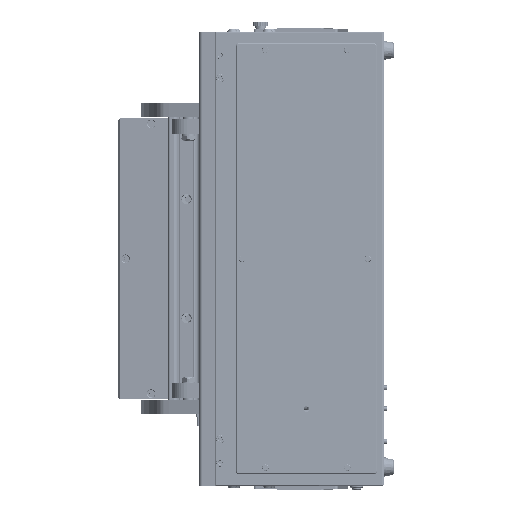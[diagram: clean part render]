
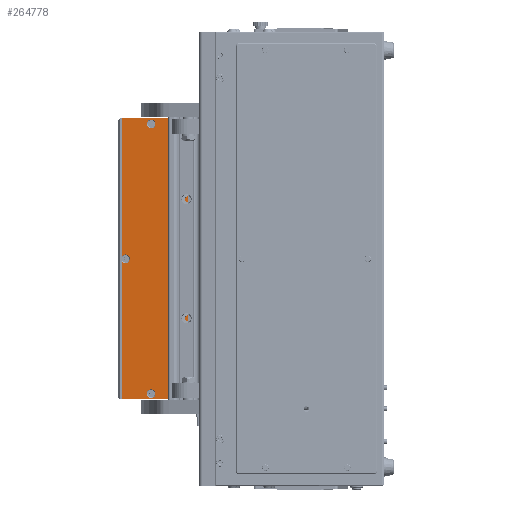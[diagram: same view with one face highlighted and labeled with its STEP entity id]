
A CAD part, left-side view. The second image highlights one B-rep face of the part: STEP entity #264778.
In plain terms, the highlighted planar face has unit normal (-0.996, 0.087, 0) as drawn and (0, 1, 0) by its records, which use the part's own axes.
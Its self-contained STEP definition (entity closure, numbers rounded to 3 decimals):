
#3710 = VERTEX_POINT ( 'NONE', #69467 ) ;
#8762 = VERTEX_POINT ( 'NONE', #25890 ) ;
#10973 = DIRECTION ( 'NONE',  ( 0., -1., 0. ) ) ;
#15471 = EDGE_CURVE ( 'NONE', #184939, #269927, #206270, .T. ) ;
#17986 = VERTEX_POINT ( 'NONE', #201702 ) ;
#18403 = AXIS2_PLACEMENT_3D ( 'NONE', #132474, #295854, #154140 ) ;
#21035 = AXIS2_PLACEMENT_3D ( 'NONE', #115789, #163146, #69585 ) ;
#21319 = EDGE_CURVE ( 'NONE', #148043, #54287, #221455, .T. ) ;
#22458 = VERTEX_POINT ( 'NONE', #303409 ) ;
#25890 = CARTESIAN_POINT ( 'NONE',  ( -145.016, 4., 15.502 ) ) ;
#27506 = DIRECTION ( 'NONE',  ( 0., 1., 0. ) ) ;
#28159 = ORIENTED_EDGE ( 'NONE', *, *, #15471, .T. ) ;
#30425 = EDGE_CURVE ( 'NONE', #192293, #17986, #283489, .T. ) ;
#37160 = VERTEX_POINT ( 'NONE', #208017 ) ;
#37523 = CIRCLE ( 'NONE', #167108, 4.7 ) ;
#38209 = EDGE_CURVE ( 'NONE', #148043, #122753, #292795, .T. ) ;
#41660 = AXIS2_PLACEMENT_3D ( 'NONE', #266829, #10973, #78728 ) ;
#47241 = EDGE_LOOP ( 'NONE', ( #271883, #288729 ) ) ;
#49087 = CIRCLE ( 'NONE', #185803, 4.7 ) ;
#52708 = ORIENTED_EDGE ( 'NONE', *, *, #277889, .T. ) ;
#54287 = VERTEX_POINT ( 'NONE', #266436 ) ;
#56423 = EDGE_CURVE ( 'NONE', #54287, #196783, #159229, .T. ) ;
#57154 = DIRECTION ( 'NONE',  ( 0., 1., 0. ) ) ;
#62972 = LINE ( 'NONE', #106122, #177107 ) ;
#69467 = CARTESIAN_POINT ( 'NONE',  ( -149., 4., 50.527 ) ) ;
#69585 = DIRECTION ( 'NONE',  ( 0., 0., 1. ) ) ;
#71618 = CARTESIAN_POINT ( 'NONE',  ( 2.441, 4., -20.923 ) ) ;
#78728 = DIRECTION ( 'NONE',  ( 0., 0., -1. ) ) ;
#81742 = ORIENTED_EDGE ( 'NONE', *, *, #233157, .T. ) ;
#84841 = DIRECTION ( 'NONE',  ( 0., 1., 0. ) ) ;
#94372 = ORIENTED_EDGE ( 'NONE', *, *, #56423, .F. ) ;
#106122 = CARTESIAN_POINT ( 'NONE',  ( -151., 4., 50.527 ) ) ;
#107581 = DIRECTION ( 'NONE',  ( -1., 0., 0. ) ) ;
#108461 = VECTOR ( 'NONE', #232406, 1000. ) ;
#115789 = CARTESIAN_POINT ( 'NONE',  ( 0., 4., -16.906 ) ) ;
#118422 = CIRCLE ( 'NONE', #254861, 2. ) ;
#119297 = CARTESIAN_POINT ( 'NONE',  ( -151., 4., -20.923 ) ) ;
#122753 = VERTEX_POINT ( 'NONE', #119297 ) ;
#130266 = CARTESIAN_POINT ( 'NONE',  ( -151., 4., -20.923 ) ) ;
#131723 = ORIENTED_EDGE ( 'NONE', *, *, #38209, .T. ) ;
#132474 = CARTESIAN_POINT ( 'NONE',  ( -145.016, 4., 10.802 ) ) ;
#134068 = ORIENTED_EDGE ( 'NONE', *, *, #220825, .T. ) ;
#140192 = DIRECTION ( 'NONE',  ( 0., 1., 0. ) ) ;
#142361 = FACE_BOUND ( 'NONE', #47241, .T. ) ;
#145409 = ORIENTED_EDGE ( 'NONE', *, *, #261038, .T. ) ;
#148043 = VERTEX_POINT ( 'NONE', #280533 ) ;
#148949 = LINE ( 'NONE', #207792, #108461 ) ;
#151139 = CARTESIAN_POINT ( 'NONE',  ( -145.016, 4., 10.802 ) ) ;
#152443 = DIRECTION ( 'NONE',  ( 0., 0., -1. ) ) ;
#152853 = DIRECTION ( 'NONE',  ( 0., 0., 1. ) ) ;
#153195 = FACE_OUTER_BOUND ( 'NONE', #169547, .T. ) ;
#154140 = DIRECTION ( 'NONE',  ( 0., 0., 1. ) ) ;
#156977 = AXIS2_PLACEMENT_3D ( 'NONE', #199603, #243878, #152443 ) ;
#157875 = EDGE_LOOP ( 'NONE', ( #158210, #167974 ) ) ;
#158210 = ORIENTED_EDGE ( 'NONE', *, *, #236265, .F. ) ;
#159229 = CIRCLE ( 'NONE', #21035, 4.7 ) ;
#160550 = VECTOR ( 'NONE', #240747, 1000. ) ;
#161595 = CARTESIAN_POINT ( 'NONE',  ( 145.016, 4., 6.102 ) ) ;
#163146 = DIRECTION ( 'NONE',  ( 0., 1., 0. ) ) ;
#167108 = AXIS2_PLACEMENT_3D ( 'NONE', #271891, #57154, #152853 ) ;
#167974 = ORIENTED_EDGE ( 'NONE', *, *, #30425, .F. ) ;
#169547 = EDGE_LOOP ( 'NONE', ( #215710, #94372, #261783, #131723, #134068, #145409, #52708, #81742, #28159 ) ) ;
#174036 = CARTESIAN_POINT ( 'NONE',  ( -151., 4., 48.527 ) ) ;
#177107 = VECTOR ( 'NONE', #248009, 1000. ) ;
#178811 = DIRECTION ( 'NONE',  ( 0., 1., 0. ) ) ;
#184939 = VERTEX_POINT ( 'NONE', #222354 ) ;
#185552 = EDGE_CURVE ( 'NONE', #8762, #37160, #49087, .T. ) ;
#185708 = EDGE_CURVE ( 'NONE', #269927, #196783, #219777, .T. ) ;
#185803 = AXIS2_PLACEMENT_3D ( 'NONE', #151139, #178811, #199347 ) ;
#190459 = AXIS2_PLACEMENT_3D ( 'NONE', #213531, #27506, #241222 ) ;
#192293 = VERTEX_POINT ( 'NONE', #161595 ) ;
#194180 = AXIS2_PLACEMENT_3D ( 'NONE', #271898, #84841, #269881 ) ;
#196783 = VERTEX_POINT ( 'NONE', #71618 ) ;
#197992 = PLANE ( 'NONE',  #41660 ) ;
#199347 = DIRECTION ( 'NONE',  ( 0., 0., 1. ) ) ;
#199603 = CARTESIAN_POINT ( 'NONE',  ( -149., 4., 48.527 ) ) ;
#201702 = CARTESIAN_POINT ( 'NONE',  ( 145.016, 4., 15.502 ) ) ;
#206270 = LINE ( 'NONE', #269458, #276060 ) ;
#207792 = CARTESIAN_POINT ( 'NONE',  ( -151., 4., 50.527 ) ) ;
#208017 = CARTESIAN_POINT ( 'NONE',  ( -145.016, 4., 6.102 ) ) ;
#208301 = FACE_BOUND ( 'NONE', #157875, .T. ) ;
#211016 = DIRECTION ( 'NONE',  ( 0., 0., -1. ) ) ;
#213531 = CARTESIAN_POINT ( 'NONE',  ( 0., 4., -16.906 ) ) ;
#215710 = ORIENTED_EDGE ( 'NONE', *, *, #185708, .T. ) ;
#219777 = LINE ( 'NONE', #130266, #263990 ) ;
#220825 = EDGE_CURVE ( 'NONE', #122753, #236834, #62972, .T. ) ;
#221455 = CIRCLE ( 'NONE', #190459, 4.7 ) ;
#222354 = CARTESIAN_POINT ( 'NONE',  ( 151., 4., 48.527 ) ) ;
#230973 = CIRCLE ( 'NONE', #18403, 4.7 ) ;
#232406 = DIRECTION ( 'NONE',  ( 1., 0., 0. ) ) ;
#233157 = EDGE_CURVE ( 'NONE', #22458, #184939, #118422, .T. ) ;
#234754 = CARTESIAN_POINT ( 'NONE',  ( 151., 4., -20.923 ) ) ;
#236265 = EDGE_CURVE ( 'NONE', #17986, #192293, #37523, .T. ) ;
#236834 = VERTEX_POINT ( 'NONE', #174036 ) ;
#240747 = DIRECTION ( 'NONE',  ( -1., 0., 0. ) ) ;
#241222 = DIRECTION ( 'NONE',  ( 0., 0., 1. ) ) ;
#243878 = DIRECTION ( 'NONE',  ( 0., 1., 0. ) ) ;
#248009 = DIRECTION ( 'NONE',  ( 0., 0., 1. ) ) ;
#254861 = AXIS2_PLACEMENT_3D ( 'NONE', #280889, #140192, #211016 ) ;
#261038 = EDGE_CURVE ( 'NONE', #236834, #3710, #285801, .T. ) ;
#261783 = ORIENTED_EDGE ( 'NONE', *, *, #21319, .F. ) ;
#263990 = VECTOR ( 'NONE', #107581, 1000. ) ;
#264778 = ADVANCED_FACE ( 'NONE', ( #142361, #208301, #153195 ), #197992, .F. ) ;
#266436 = CARTESIAN_POINT ( 'NONE',  ( 0., 4., -12.206 ) ) ;
#266829 = CARTESIAN_POINT ( 'NONE',  ( 0., 4., 0. ) ) ;
#269458 = CARTESIAN_POINT ( 'NONE',  ( 151., 4., 50.527 ) ) ;
#269881 = DIRECTION ( 'NONE',  ( 0., 0., 1. ) ) ;
#269927 = VERTEX_POINT ( 'NONE', #234754 ) ;
#271883 = ORIENTED_EDGE ( 'NONE', *, *, #185552, .F. ) ;
#271891 = CARTESIAN_POINT ( 'NONE',  ( 145.016, 4., 10.802 ) ) ;
#271898 = CARTESIAN_POINT ( 'NONE',  ( 145.016, 4., 10.802 ) ) ;
#276060 = VECTOR ( 'NONE', #292100, 1000. ) ;
#277889 = EDGE_CURVE ( 'NONE', #3710, #22458, #148949, .T. ) ;
#280533 = CARTESIAN_POINT ( 'NONE',  ( -2.441, 4., -20.923 ) ) ;
#280889 = CARTESIAN_POINT ( 'NONE',  ( 149., 4., 48.527 ) ) ;
#283489 = CIRCLE ( 'NONE', #194180, 4.7 ) ;
#285801 = CIRCLE ( 'NONE', #156977, 2. ) ;
#287973 = CARTESIAN_POINT ( 'NONE',  ( -151., 4., -20.923 ) ) ;
#288729 = ORIENTED_EDGE ( 'NONE', *, *, #292821, .F. ) ;
#292100 = DIRECTION ( 'NONE',  ( 0., 0., -1. ) ) ;
#292795 = LINE ( 'NONE', #287973, #160550 ) ;
#292821 = EDGE_CURVE ( 'NONE', #37160, #8762, #230973, .T. ) ;
#295854 = DIRECTION ( 'NONE',  ( 0., 1., 0. ) ) ;
#303409 = CARTESIAN_POINT ( 'NONE',  ( 149., 4., 50.527 ) ) ;
